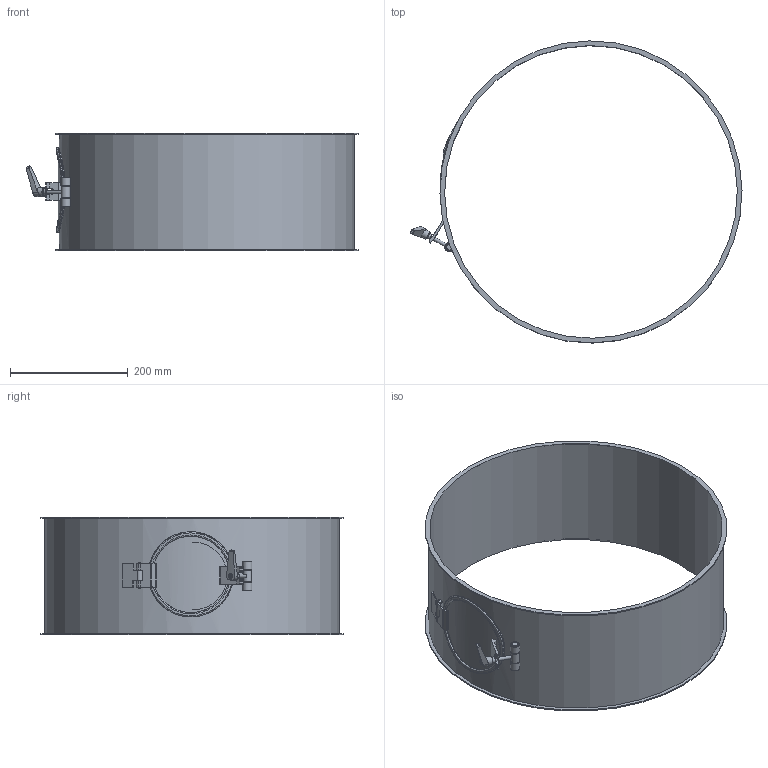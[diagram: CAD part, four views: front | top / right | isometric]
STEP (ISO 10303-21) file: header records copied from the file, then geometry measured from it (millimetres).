
FILE_DESCRIPTION((''),'2;1');
FILE_NAME('U:\Wolfgang\Marcel-3D\fertig\Kapitel 4\5021043.stp','2011-04-21T08:29:37',('TK1'),(''),'Autodesk Inventor 2010','Autodesk Inventor 2010','');
FILE_SCHEMA(('AUTOMOTIVE_DESIGN { 1 0 10303 214 1 1 1 1 }'));
Length unit declared in the file: millimetre
Products named in the file (13): 5021043 (Detailgenauigkeit1); 5021043-1; GelenkDeckel50b; GelenkDeckel1c; Deckel502; Deckel50b; GelenkDeckel35a; dichtung50; Halterung Deckel50; Verschluss; Verschluss1; Verschluss2; Verstellbarer Klemmhebel GN 101-14-M6-SW
Assembly tree (13 placements, depth 3):
  5021043 (Detailgenauigkeit1)
    5021043-1
    GelenkDeckel50b
    GelenkDeckel1c
    Deckel502
      Deckel50b
      GelenkDeckel35a
      dichtung50
      Halterung Deckel50
    Verschluss
      Verschluss1  x2
      Verschluss2
    Verstellbarer Klemmhebel GN 101-14-M6-SW
Bounding box: 564.93 x 513.98 x 200 mm (x, y, z)
Volume: 710821 mm3; surface area: 711491.8 mm2
Topology: 11 solids, 11 shells, 143 faces, 328 edges, 215 vertices
Faces by surface type: plane 67, cylinder 47, cone 18, torus 5, bspline 4, sphere 2
Full cylindrical faces by diameter (mm): 4.8 x1, 6 x5, 8 x1, 10 x3, 11 x2, 14 x1, 15 x1, 16 x2, 115 x1, 130 x1, 135 x1, 145 x1, 498 x1, 502 x1, 514 x2
Entity records: 5646 total; most frequent: CARTESIAN_POINT 2378, DIRECTION 632, ORIENTED_EDGE 532, EDGE_CURVE 266, AXIS2_PLACEMENT_3D 247, VERTEX_POINT 195, EDGE_LOOP 193, VECTOR 138
